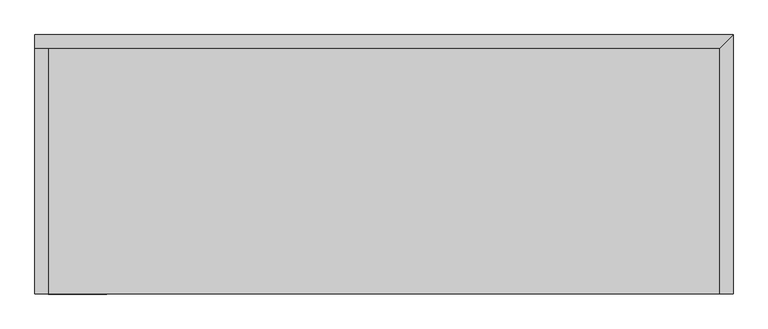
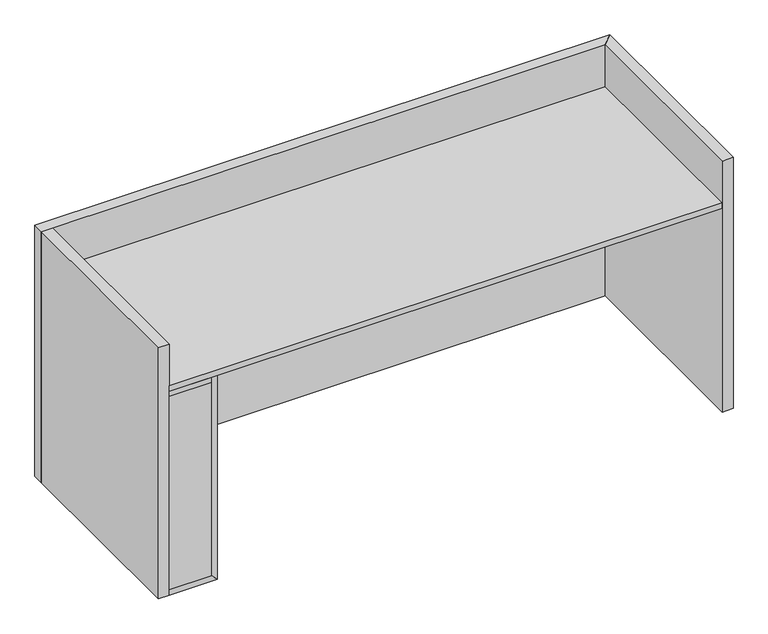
"""IFC4 building model written with IfcOpenShell, lengths in millimetres: proxy geometry, FOUNDATION^PO2_DESK SHELL-PARTS SOLID."""

import ifcopenshell
import ifcopenshell.guid

model = None  # the IFC model being written
_history = None  # IfcOwnerHistory: only IFC2X3 demands one
_inside = {}  # id of a spatial element -> (the spatial element, [elements in it])
_under = {}  # id of a project, library or spatial element -> (it, [spatial elements below it])
_declared = {}  # id of a project -> (the project, [libraries it declares])
_typed = {}  # id of a type object -> (the type object, [elements of that type])
_made_of = {}  # id of a material, layer set ... -> (it, [elements and type objects made of it])


def new_model(schema):
    """Start an empty IFC model of exactly this schema.

    Asked for "IFC4X3", IfcOpenShell would pick the latest addendum, in which some entities
    have other attributes; the version numbers below select the first issue.
    IFC2X3 requires an IfcOwnerHistory on every rooted entity: one is made here for all.
    """
    global model, _history
    if schema == "IFC4X3":
        model = ifcopenshell.file(schema_version=(4, 3, 0, 0))
    else:
        model = ifcopenshell.file(schema=schema)
    _inside.clear()
    _under.clear()
    _declared.clear()
    _typed.clear()
    _made_of.clear()
    _history = None
    if model.schema == "IFC2X3":
        org = make("IfcOrganization", Name="unknown")
        user = make(
            "IfcPersonAndOrganization",
            ThePerson=make("IfcPerson", FamilyName="unknown"),
            TheOrganization=org,
        )
        app = make(
            "IfcApplication",
            ApplicationDeveloper=org,
            Version="unknown",
            ApplicationFullName="unknown",
            ApplicationIdentifier="unknown",
        )
        _history = make(
            "IfcOwnerHistory",
            OwningUser=user,
            OwningApplication=app,
            ChangeAction="ADDED",
            CreationDate=0,
        )
    return model


def make(cls, **values):
    """One entity of the class cls with the attributes given. An attribute that is None is left unset."""
    return model.create_entity(
        cls, **{name: value for name, value in values.items() if value is not None}
    )


def rooted(cls, **values):
    """An entity with a GlobalId (a new one), such as an element, a storey or a relation."""
    return make(cls, GlobalId=ifcopenshell.guid.new(), OwnerHistory=_history, **values)


def si_unit(unit_type, name, prefix=None):
    """IfcSIUnit, for example si_unit("LENGTHUNIT", "METRE", prefix="MILLI")."""
    return make("IfcSIUnit", UnitType=unit_type, Prefix=prefix, Name=name)


def assignment(units):
    """IfcUnitAssignment: the units of a project."""
    return None if units is None else make("IfcUnitAssignment", Units=units)


def point(xyz):
    """IfcCartesianPoint."""
    return None if xyz is None else make("IfcCartesianPoint", Coordinates=xyz)


def direction(xyz):
    """IfcDirection."""
    return None if xyz is None else make("IfcDirection", DirectionRatios=xyz)


def frame(location, z_axis=None, x_axis=None):
    """IfcAxis2Placement3D, a coordinate frame: its origin and axes. An axis left out is left unset."""
    return make(
        "IfcAxis2Placement3D",
        Location=point(location),
        Axis=direction(z_axis),
        RefDirection=direction(x_axis),
    )


def origin():
    """The frame at (0, 0, 0) with its axes left unset."""
    return frame((0.0, 0.0, 0.0))


def origin_with_axes():
    """The frame at (0, 0, 0) with the z axis (0, 0, 1) and the x axis (1, 0, 0) written out."""
    return frame((0.0, 0.0, 0.0), z_axis=(0.0, 0.0, 1.0), x_axis=(1.0, 0.0, 0.0))


def place(relative_to, where):
    """IfcLocalPlacement: puts the frame where relative to a parent placement (None: the world)."""
    return make(
        "IfcLocalPlacement", PlacementRelTo=relative_to, RelativePlacement=where
    )


def context(
    kind, dimensions, precision=None, world=None, true_north=None, identifier=None
):
    """IfcGeometricRepresentationContext, for example the 3D "Model" context."""
    return make(
        "IfcGeometricRepresentationContext",
        ContextIdentifier=identifier,
        ContextType=kind,
        CoordinateSpaceDimension=dimensions,
        Precision=precision,
        WorldCoordinateSystem=world,
        TrueNorth=true_north,
    )


def project(units=None, contexts=None):
    """IfcProject with its units and contexts."""
    return rooted(
        "IfcProject",
        Name="project",
        RepresentationContexts=contexts,
        UnitsInContext=assignment(units),
    )


def spatial(cls, under=None, at=None, **own):
    """A site, building, storey or space (cls), placed at a placement, below another one or the project."""
    s = rooted(cls, ObjectPlacement=at, **own)
    if under is not None:
        _under.setdefault(under.id(), (under, []))[1].append(s)
    return s


def polyline(points):
    """IfcPolyline through the points."""
    return make("IfcPolyline", Points=[point(p) for p in points])


def outline(outer, holes=None, kind="AREA"):
    """IfcArbitraryClosedProfileDef: a profile drawn as a closed curve; with holes, ...WithVoids."""
    if holes is None:
        return make("IfcArbitraryClosedProfileDef", ProfileType=kind, OuterCurve=outer)
    return make(
        "IfcArbitraryProfileDefWithVoids",
        ProfileType=kind,
        OuterCurve=outer,
        InnerCurves=holes,
    )


def extrude(swept, where, along, depth):
    """IfcExtrudedAreaSolid: the profile swept, set in the frame where, extruded along a direction by depth."""
    return make(
        "IfcExtrudedAreaSolid",
        SweptArea=swept,
        Position=where,
        ExtrudedDirection=direction(along),
        Depth=depth,
    )


def shape(context_of_items, identifier, shape_type, items):
    """IfcShapeRepresentation: the items that make up one representation, for example the "Body"."""
    return make(
        "IfcShapeRepresentation",
        ContextOfItems=context_of_items,
        RepresentationIdentifier=identifier,
        RepresentationType=shape_type,
        Items=items,
    )


def source(mapping_origin, context_of_items, identifier, shape_type, items):
    """IfcRepresentationMap: a shape defined once, which mapped items show again and again."""
    return make(
        "IfcRepresentationMap",
        MappingOrigin=mapping_origin,
        MappedRepresentation=shape(context_of_items, identifier, shape_type, items),
    )


def transform(
    local_origin,
    x_axis=None,
    y_axis=None,
    z_axis=None,
    scale=None,
    scale2=None,
    scale3=None,
    uniform=True,
):
    """IfcCartesianTransformationOperator3D, or its non-uniform kind. x_axis, y_axis, z_axis: its Axis1, 2, 3."""
    if uniform:
        return make(
            "IfcCartesianTransformationOperator3D",
            Axis1=direction(x_axis),
            Axis2=direction(y_axis),
            LocalOrigin=point(local_origin),
            Scale=scale,
            Axis3=direction(z_axis),
        )
    return make(
        "IfcCartesianTransformationOperator3DnonUniform",
        Axis1=direction(x_axis),
        Axis2=direction(y_axis),
        LocalOrigin=point(local_origin),
        Scale=scale,
        Axis3=direction(z_axis),
        Scale2=scale2,
        Scale3=scale3,
    )


def mapped(mapping_source, mapping_target):
    """IfcMappedItem: shows the shape of a source again, moved by a transform."""
    return make(
        "IfcMappedItem", MappingSource=mapping_source, MappingTarget=mapping_target
    )


def made_of(thing, what):
    """Note that an element or type object is made of a material, layer set ...; save() writes the relation."""
    if what is not None:
        _made_of.setdefault(what.id(), (what, []))[1].append(thing)
    return thing


def element(
    cls,
    number,
    at=None,
    inside=None,
    cuts=None,
    type_object=None,
    material=None,
    context=None,
    identifier="Body",
    shape_type=None,
    held_by="IfcProductDefinitionShape",
    body=None,
    shapes=None,
    **own,
):
    """One element of the class cls, such as IfcWall. Its Tag is "e" and its number.

    at: its placement. inside: the storey or other place that contains it. cuts: it is an
    opening in that element (IfcRelVoidsElement). A single representation is given by context,
    identifier, shape_type and body (its items); several are given by shapes. held_by: the class
    of the entity that holds the representations. save() writes the other relations.
    """
    e = rooted(cls, Tag="e%d" % number, ObjectPlacement=at, **own)
    if body is not None:
        shapes = [shape(context, identifier, shape_type, body)]
    if shapes is not None:
        e.Representation = make(held_by, Representations=shapes)
    if inside is not None:
        _inside.setdefault(inside.id(), (inside, []))[1].append(e)
    if cuts is not None:
        rooted(
            "IfcRelVoidsElement", RelatingBuildingElement=cuts, RelatedOpeningElement=e
        )
    if type_object is not None:
        _typed.setdefault(type_object.id(), (type_object, []))[1].append(e)
    return made_of(e, material)


def aggregate(whole, parts):
    """IfcRelAggregates: a whole, such as a stair, and the parts it consists of."""
    return rooted("IfcRelAggregates", RelatingObject=whole, RelatedObjects=parts)


def save(model, path):
    """Write the relations noted so far, then the file.

    IfcRelAggregates (storeys below a building ...), IfcRelContainedInSpatialStructure (elements
    in a storey), IfcRelDefinesByType, IfcRelAssociatesMaterial and IfcRelDeclares: one each for
    every whole, place, type object, material and project.
    """
    for whole, parts in _under.values():
        aggregate(whole, parts)
    for where, things in _inside.values():
        rooted(
            "IfcRelContainedInSpatialStructure",
            RelatedElements=things,
            RelatingStructure=where,
        )
    for kind, things in _typed.values():
        rooted("IfcRelDefinesByType", RelatedObjects=things, RelatingType=kind)
    for what, things in _made_of.values():
        rooted("IfcRelAssociatesMaterial", RelatedObjects=things, RelatingMaterial=what)
    for by, libraries in _declared.values():
        rooted("IfcRelDeclares", RelatingContext=by, RelatedDefinitions=libraries)
    model.write(path)


def generic_models_a189b151(model_context):
    return source(origin(), model_context, "Body", "SweptSolid", [
        extrude(outline(polyline([(0.0, 38.1), (0.0, 203.2), (19.05, 184.15), (19.05, 38.1), (0.0, 38.1)])), frame((0.0, 0.0, 0.0), z_axis=(0.0, 1.0, 0.0), x_axis=(0.0, 0.0, 1.0)), (0.0, 0.0, 1.0), 698.5),
        extrude(outline(polyline([(1943.1, 698.5), (1943.1, 0.0), (38.1, 0.0), (38.1, 698.5), (1943.1, 698.5)])), frame((0.0, 0.0, 742.95), z_axis=(0.0, 0.0, 1.0), x_axis=(1.0, 0.0, 0.0)), (0.0, 0.0, 1.0), 19.05),
        extrude(outline(polyline([(19.05, 184.15), (0.0, 203.2), (742.95, 203.2), (742.95, 184.15), (19.05, 184.15)])), frame((0.0, 0.0, 0.0), z_axis=(0.0, 1.0, 0.0), x_axis=(0.0, 0.0, 1.0)), (0.0, 0.0, 1.0), 698.5),
        extrude(outline(polyline([(1981.2, 736.6), (1943.1, 698.5), (0.0, 698.5), (0.0, 736.6), (1981.2, 736.6)])), origin_with_axes(), (0.0, 0.0, 1.0), 914.4),
        extrude(outline(polyline([(184.15, 698.5), (184.15, 0.0), (38.1, 0.0), (38.1, 698.5), (184.15, 698.5)])), frame((0.0, 0.0, 723.9), z_axis=(0.0, 0.0, 1.0), x_axis=(1.0, 0.0, 0.0)), (0.0, 0.0, 1.0), 19.05),
        extrude(outline(polyline([(184.15, 0.0), (38.1, 0.0), (38.1, 31.75), (184.15, 31.75), (184.15, 0.0)])), frame((0.0, 0.0, 19.05), z_axis=(0.0, 0.0, 1.0), x_axis=(1.0, 0.0, 0.0)), (0.0, 0.0, 1.0), 704.85),
        extrude(outline(polyline([(38.1, 698.5), (38.1, 0.0), (0.0, 0.0), (0.0, 698.5), (38.1, 698.5)])), origin_with_axes(), (0.0, 0.0, 1.0), 914.4),
        extrude(outline(polyline([(1981.2, 0.0), (1943.1, 0.0), (1943.1, 698.5), (1981.2, 736.6), (1981.2, 0.0)])), origin_with_axes(), (0.0, 0.0, 1.0), 914.4),
    ])


if __name__ == "__main__":
    model = new_model("IFC4")
    model_context = context("Model", 3, world=origin())
    ifc_project = project(units=[si_unit("LENGTHUNIT", "METRE", prefix="MILLI")], contexts=[model_context])
    site = spatial("IfcSite", under=ifc_project)
    building = spatial("IfcBuilding", under=site)
    placement = place(None, origin())
    generic_models_shape = generic_models_a189b151(model_context)
    element("IfcBuildingElementProxy", 1, Name="FOUNDATION^PO2_DESK SHELL-PARTS SOLID", ObjectType="FOUNDATION^PO2_DESK SHELL-PARTS SOLID", at=placement, inside=building, context=model_context, shape_type="MappedRepresentation", body=[
        mapped(generic_models_shape, transform((0.0, 0.0, 0.0), x_axis=(1.0, 0.0, 0.0), y_axis=(0.0, 1.0, 0.0), z_axis=(0.0, 0.0, 1.0))),
    ])
    save(model, "model.ifc")
